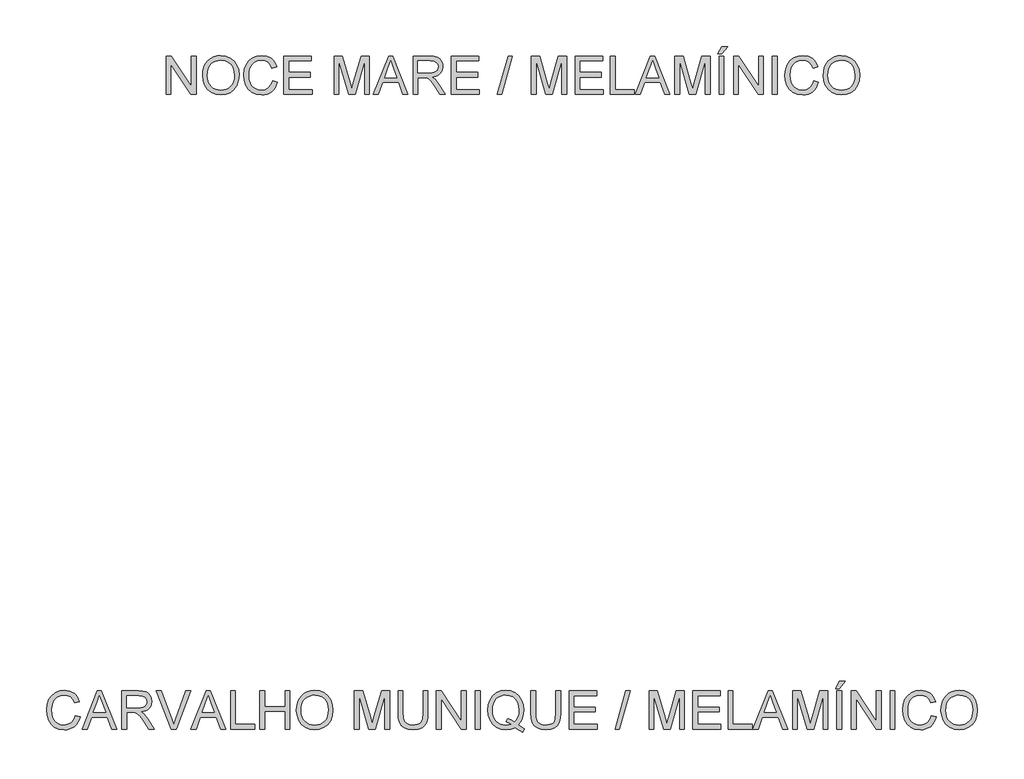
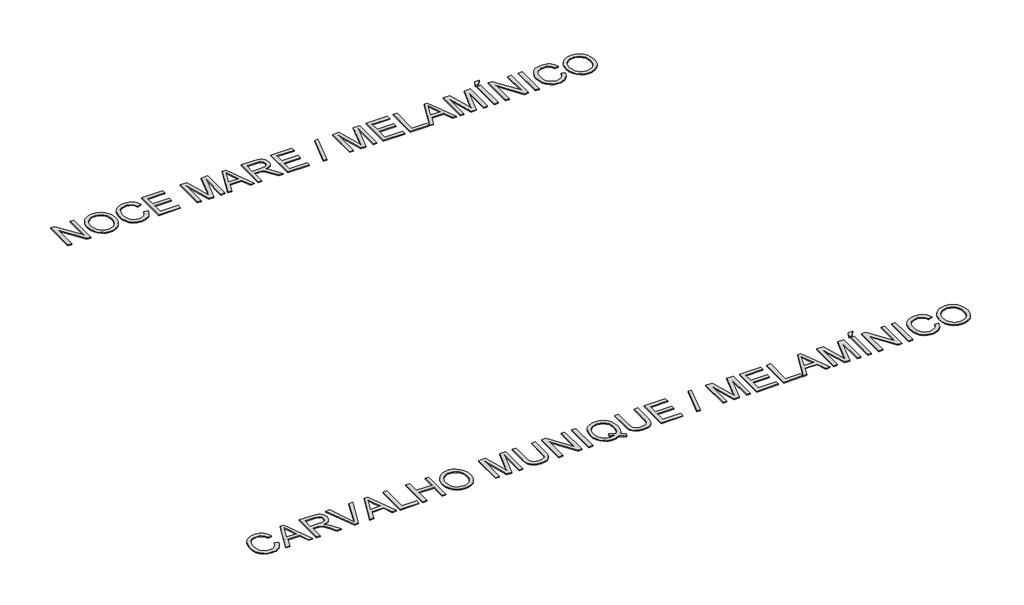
# One storey, part 32 of 67: 2 proxies.
"""IFC4 building model written with IfcOpenShell, lengths in millimetres."""

from ifc_helpers import new_model, si_unit, origin, origin_with_axes, place, context, project, spatial, polyline, outline, extrude, element, save

model = new_model("IFC4")

# Units and contexts
model_context = context("Model", 3, world=origin())
ifc_project = project(units=[si_unit("LENGTHUNIT", "METRE", prefix="MILLI")], contexts=[model_context])

# Site, building, storey
site = spatial("IfcSite", under=ifc_project)
building = spatial("IfcBuilding", under=site)
storey = spatial("IfcBuildingStorey", under=building, Name="Marelli - Linha COLAB - Planta Baixa", Elevation=0.0)

# Proxies
placement = place(None, origin())
element("IfcBuildingElementProxy", 1, Name="300mm Arial", ObjectType="300mm Arial", at=placement, inside=storey, context=model_context, shape_type="SweptSolid", body=[
    extrude(outline(polyline([(30677.8206167, -112530.5663201), (30677.8206167, -112229.1973896), (30718.1404834, -112229.1973896), (30875.5939773, -112467.9528045), (30875.5939773, -112229.1973896), (30913.2650936, -112229.1973896), (30913.2650936, -112530.5663201), (30872.945227, -112530.5663201), (30715.491733, -112291.7373288), (30715.491733, -112530.5663201), (30677.8206167, -112530.5663201)])), origin_with_axes(), (0.0, 0.0, 1.0), 10.0),
    extrude(outline(polyline([(30965.0628785, -112383.8549804), (30967.5736732, -112348.5061192), (30975.106057, -112317.213157), (30987.6600301, -112289.9760937), (31005.2355924, -112266.7949295), (31026.7796818, -112248.2858666), (31051.2392359, -112235.0651074), (31078.6142549, -112227.1326519), (31108.9047387, -112224.4885001), (31148.433659, -112229.454907), (31183.8790893, -112244.3541278), (31213.3096489, -112268.1376988), (31234.7939574, -112299.7571563), (31247.9273446, -112337.68579), (31252.3051404, -112380.3968896), (31247.6974184, -112423.6782064), (31233.8742524, -112462.140269), (31211.5989976, -112493.8149087), (31181.6350091, -112516.733957), (31146.4930815, -112530.6398965), (31108.6840095, -112535.2752096), (31068.5480838, -112530.1524528), (31032.9003185, -112514.7841825), (31003.5433352, -112490.5591531), (30982.2797559, -112458.8661192), (30969.3670979, -112422.3998164), (30965.0628785, -112383.8549804)]), holes=[polyline([(31002.7339949, -112384.2228624), (31004.6170908, -112409.1974513), (31010.2663787, -112431.3669401), (31019.6818585, -112450.7313286), (31032.8635303, -112467.2906169), (31048.8870904, -112480.5527628), (31066.8282355, -112490.0257242), (31086.6869654, -112495.709501), (31108.4632803, -112497.6040933), (31130.6120756, -112495.6911069), (31150.7053304, -112489.9521478), (31168.7430444, -112480.3872159), (31184.7252179, -112466.9963113), (31197.8103206, -112450.0875351), (31207.1568225, -112429.9689885), (31212.7647237, -112406.6406715), (31214.6340241, -112380.102584), (31211.4334507, -112346.7540812), (31201.8317306, -112317.9305269), (31186.0771842, -112294.358488), (31164.4181317, -112276.7645316), (31138.289313, -112265.8108452), (31109.1254679, -112262.1596164), (31088.1056104, -112263.9185522), (31068.6032661, -112269.1953595), (31050.618435, -112277.9900385), (31034.1511172, -112290.302589), (31020.4061262, -112306.7262208), (31010.5882754, -112327.8541437), (31004.697565, -112353.6863575), (31002.7339949, -112384.2228624)])]), origin_with_axes(), (0.0, 0.0, 1.0), 10.0),
    extrude(outline(polyline([(31516.0029545, -112423.4390831), (31553.6740708, -112433.1511677), (31546.2198619, -112456.5783531), (31536.2916466, -112477.0486868), (31523.8894248, -112494.5621691), (31509.0131966, -112509.1187997), (31491.9986543, -112520.5622291), (31473.1814903, -112528.7361071), (31452.5617045, -112533.640434), (31430.1392968, -112535.2752096), (31386.4441129, -112530.3271968), (31351.7436437, -112515.4831583), (31325.1457754, -112491.2581289), (31305.7583943, -112458.1671434), (31293.9217911, -112419.2636224), (31289.9762567, -112377.6009865), (31294.4368259, -112333.6574821), (31307.8185335, -112295.7104543), (31329.4224036, -112264.9647166), (31358.5494606, -112242.6250824), (31393.0935799, -112229.0226457), (31430.9486372, -112224.4885001), (31472.2525882, -112230.3562179), (31490.2213244, -112237.6908652), (31506.4012344, -112247.9593714), (31520.5256038, -112260.8904235), (31532.3277181, -112276.2127086), (31548.9651813, -112314.0309777), (31511.294065, -112323.0072984), (31498.2342542, -112295.5357104), (31480.3919774, -112276.6909552), (31457.5465055, -112265.7924511), (31429.4771093, -112262.1596164), (31397.1218878, -112266.1879242), (31370.5424136, -112278.2728478), (31350.3732832, -112297.1451941), (31337.2490931, -112321.5357704), (31330.047803, -112349.1085259), (31327.647373, -112377.5274101), (31330.4892614, -112412.3290468), (31339.0149266, -112442.421794), (31353.5462655, -112466.6560205), (31374.4051746, -112483.8820949), (31399.4119532, -112494.1735937), (31426.3869005, -112497.6040933), (31457.831614, -112492.931992), (31484.0340091, -112478.9156879), (31503.8168634, -112455.702334), (31516.0029545, -112423.4390831)])), origin_with_axes(), (0.0, 0.0, 1.0), 10.0),
    extrude(outline(polyline([(31605.4718557, -112530.5663201), (31605.4718557, -112229.1973896), (31822.0807745, -112229.1973896), (31822.0807745, -112266.8685059), (31643.1429721, -112266.8685059), (31643.1429721, -112356.3374072), (31812.6629954, -112356.3374072), (31812.6629954, -112394.0085235), (31643.1429721, -112394.0085235), (31643.1429721, -112492.8952038), (31826.789664, -112492.8952038), (31826.789664, -112530.5663201), (31605.4718557, -112530.5663201)])), origin_with_axes(), (0.0, 0.0, 1.0), 10.0),
    extrude(outline(polyline([(32001.018577, -112530.5663201), (32001.018577, -112229.1973896), (32065.8393845, -112229.1973896), (32127.4964069, -112441.6124536), (32139.9308183, -112485.9790223), (32153.3952994, -112437.9336337), (32214.0222522, -112229.1973896), (32278.8430597, -112229.1973896), (32278.8430597, -112530.5663201), (32241.1719434, -112530.5663201), (32241.1719434, -112266.8685059), (32165.4618288, -112530.5663201), (32114.3998079, -112530.5663201), (32038.6896933, -112266.8685059), (32038.6896933, -112530.5663201), (32001.018577, -112530.5663201)])), origin_with_axes(), (0.0, 0.0, 1.0), 10.0),
    extrude(outline(polyline([(32309.6715709, -112530.5663201), (32429.9689833, -112229.1973896), (32462.0482933, -112229.1973896), (32582.3457057, -112530.5663201), (32542.5408739, -112530.5663201), (32508.0335427, -112436.3885293), (32383.9101575, -112436.3885293), (32349.4764028, -112530.5663201), (32309.6715709, -112530.5663201)]), holes=[polyline([(32397.7425206, -112398.717413), (32494.2747561, -112398.717413), (32467.1250649, -112324.6259792), (32446.0086383, -112266.8685059), (32427.2466566, -112318.1512561), (32397.7425206, -112398.717413)])]), origin_with_axes(), (0.0, 0.0, 1.0), 10.0),
    extrude(outline(polyline([(32622.591996, -112530.5663201), (32622.591996, -112229.1973896), (32752.4543403, -112229.1973896), (32787.3571446, -112231.2299376), (32812.7501993, -112237.3275817), (32831.309846, -112248.5847708), (32845.7124261, -112266.0959537), (32854.9554612, -112287.8101885), (32858.0364729, -112311.6765329), (32852.9321102, -112341.3646099), (32837.6190222, -112365.9759154), (32826.019243, -112376.0052983), (32811.6373563, -112384.0205273), (32774.52726, -112394.0085235), (32795.9379921, -112410.1217548), (32826.4721977, -112448.8965171), (32876.7248783, -112530.5663201), (32832.9469209, -112530.5663201), (32793.7307002, -112468.0999573), (32765.4037865, -112426.750021), (32745.5013706, -112407.2154871), (32727.5855174, -112400.0417882), (32705.7333269, -112398.717413), (32660.2631123, -112398.717413), (32660.2631123, -112530.5663201), (32622.591996, -112530.5663201)]), holes=[polyline([(32660.2631123, -112361.0462967), (32744.5816656, -112361.0462967), (32768.7974979, -112359.7127245), (32787.5870709, -112355.7120078), (32801.7321336, -112348.7774322), (32812.0144353, -112338.6422832), (32818.2776263, -112326.3826157), (32820.3653566, -112313.0744845), (32816.383034, -112294.6987789), (32804.4360662, -112279.8915286), (32783.8806597, -112270.1242616), (32754.0730211, -112266.8685059), (32660.2631123, -112266.8685059), (32660.2631123, -112361.0462967)])]), origin_with_axes(), (0.0, 0.0, 1.0), 10.0),
    extrude(outline(polyline([(32923.9609265, -112530.5663201), (32923.9609265, -112229.1973896), (33140.5698452, -112229.1973896), (33140.5698452, -112266.8685059), (32961.6320428, -112266.8685059), (32961.6320428, -112356.3374072), (33131.1520661, -112356.3374072), (33131.1520661, -112394.0085235), (32961.6320428, -112394.0085235), (32961.6320428, -112492.8952038), (33145.2787348, -112492.8952038), (33145.2787348, -112530.5663201), (32923.9609265, -112530.5663201)])), origin_with_axes(), (0.0, 0.0, 1.0), 10.0),
    extrude(outline(polyline([(33286.5454209, -112530.5663201), (33371.3054326, -112229.1973896), (33405.297729, -112229.1973896), (33320.5377173, -112530.5663201), (33286.5454209, -112530.5663201)])), origin_with_axes(), (0.0, 0.0, 1.0), 10.0),
    extrude(outline(polyline([(33554.9521246, -112530.5663201), (33554.9521246, -112229.1973896), (33619.7729321, -112229.1973896), (33681.4299545, -112441.6124536), (33693.864366, -112485.9790223), (33707.328847, -112437.9336337), (33767.9557998, -112229.1973896), (33832.7766073, -112229.1973896), (33832.7766073, -112530.5663201), (33795.105491, -112530.5663201), (33795.105491, -112266.8685059), (33719.3953764, -112530.5663201), (33668.3333555, -112530.5663201), (33592.6232409, -112266.8685059), (33592.6232409, -112530.5663201), (33554.9521246, -112530.5663201)])), origin_with_axes(), (0.0, 0.0, 1.0), 10.0),
    extrude(outline(polyline([(33898.7010609, -112530.5663201), (33898.7010609, -112229.1973896), (34115.3099796, -112229.1973896), (34115.3099796, -112266.8685059), (33936.3721772, -112266.8685059), (33936.3721772, -112356.3374072), (34105.8922006, -112356.3374072), (34105.8922006, -112394.0085235), (33936.3721772, -112394.0085235), (33936.3721772, -112492.8952038), (34120.0188692, -112492.8952038), (34120.0188692, -112530.5663201), (33898.7010609, -112530.5663201)])), origin_with_axes(), (0.0, 0.0, 1.0), 10.0),
    extrude(outline(polyline([(34176.5255436, -112530.5663201), (34176.5255436, -112229.1973896), (34214.1966599, -112229.1973896), (34214.1966599, -112492.8952038), (34364.8811252, -112492.8952038), (34364.8811252, -112530.5663201), (34176.5255436, -112530.5663201)])), origin_with_axes(), (0.0, 0.0, 1.0), 10.0),
    extrude(outline(polyline([(34372.1651887, -112530.5663201), (34492.4626011, -112229.1973896), (34524.5419111, -112229.1973896), (34644.8393235, -112530.5663201), (34605.0344916, -112530.5663201), (34570.5271605, -112436.3885293), (34446.4037753, -112436.3885293), (34411.9700206, -112530.5663201), (34372.1651887, -112530.5663201)]), holes=[polyline([(34460.2361383, -112398.717413), (34556.7683739, -112398.717413), (34529.6186826, -112324.6259792), (34508.5022561, -112266.8685059), (34489.7402743, -112318.1512561), (34460.2361383, -112398.717413)])]), origin_with_axes(), (0.0, 0.0, 1.0), 10.0),
    extrude(outline(polyline([(34685.0856138, -112530.5663201), (34685.0856138, -112229.1973896), (34749.9064213, -112229.1973896), (34811.5634437, -112441.6124536), (34823.9978552, -112485.9790223), (34837.4623362, -112437.9336337), (34898.089289, -112229.1973896), (34962.9100965, -112229.1973896), (34962.9100965, -112530.5663201), (34925.2389802, -112530.5663201), (34925.2389802, -112266.8685059), (34849.5288656, -112530.5663201), (34798.4668447, -112530.5663201), (34722.7567301, -112266.8685059), (34722.7567301, -112530.5663201), (34685.0856138, -112530.5663201)])), origin_with_axes(), (0.0, 0.0, 1.0), 10.0),
    extrude(outline(polyline([(35033.5434396, -112530.5663201), (35033.5434396, -112229.1973896), (35071.2145559, -112229.1973896), (35071.2145559, -112530.5663201), (35033.5434396, -112530.5663201)])), origin_with_axes(), (0.0, 0.0, 1.0), 10.0),
    extrude(outline(polyline([(35024.1256605, -112210.3618315), (35052.3789978, -112153.855157), (35099.4678931, -112153.855157), (35052.3789978, -112210.3618315), (35024.1256605, -112210.3618315)])), origin_with_axes(), (0.0, 0.0, 1.0), 10.0),
    extrude(outline(polyline([(35146.5567885, -112530.5663201), (35146.5567885, -112229.1973896), (35186.8766552, -112229.1973896), (35344.3301491, -112467.9528045), (35344.3301491, -112229.1973896), (35382.0012654, -112229.1973896), (35382.0012654, -112530.5663201), (35341.6813988, -112530.5663201), (35184.2279048, -112291.7373288), (35184.2279048, -112530.5663201), (35146.5567885, -112530.5663201)])), origin_with_axes(), (0.0, 0.0, 1.0), 10.0),
    extrude(outline(polyline([(35452.6346085, -112530.5663201), (35452.6346085, -112229.1973896), (35490.3057248, -112229.1973896), (35490.3057248, -112530.5663201), (35452.6346085, -112530.5663201)])), origin_with_axes(), (0.0, 0.0, 1.0), 10.0),
    extrude(outline(polyline([(35777.5479867, -112423.4390831), (35815.219103, -112433.1511677), (35807.764894, -112456.5783531), (35797.8366787, -112477.0486868), (35785.4344569, -112494.5621691), (35770.5582287, -112509.1187997), (35753.5436865, -112520.5622291), (35734.7265224, -112528.7361071), (35714.1067366, -112533.640434), (35691.684329, -112535.2752096), (35647.989145, -112530.3271968), (35613.2886758, -112515.4831583), (35586.6908076, -112491.2581289), (35567.3034264, -112458.1671434), (35555.4668232, -112419.2636224), (35551.5212888, -112377.6009865), (35555.981858, -112333.6574821), (35569.3635656, -112295.7104543), (35590.9674357, -112264.9647166), (35620.0944927, -112242.6250824), (35654.6386121, -112229.0226457), (35692.4936694, -112224.4885001), (35733.7976204, -112230.3562179), (35751.7663566, -112237.6908652), (35767.9462666, -112247.9593714), (35782.0706359, -112260.8904235), (35793.8727502, -112276.2127086), (35810.5102134, -112314.0309777), (35772.8390971, -112323.0072984), (35759.7792863, -112295.5357104), (35741.9370095, -112276.6909552), (35719.0915376, -112265.7924511), (35691.0221414, -112262.1596164), (35658.6669199, -112266.1879242), (35632.0874458, -112278.2728478), (35611.9183154, -112297.1451941), (35598.7941252, -112321.5357704), (35591.5928351, -112349.1085259), (35589.1924051, -112377.5274101), (35592.0342935, -112412.3290468), (35600.5599588, -112442.421794), (35615.0912976, -112466.6560205), (35635.9502067, -112483.8820949), (35660.9569853, -112494.1735937), (35687.9319326, -112497.6040933), (35719.3766462, -112492.931992), (35745.5790413, -112478.9156879), (35765.3618956, -112455.702334), (35777.5479867, -112423.4390831)])), origin_with_axes(), (0.0, 0.0, 1.0), 10.0),
    extrude(outline(polyline([(35852.8902193, -112383.8549804), (35855.4010139, -112348.5061192), (35862.9333977, -112317.213157), (35875.4873708, -112289.9760937), (35893.0629331, -112266.7949295), (35914.6070225, -112248.2858666), (35939.0665766, -112235.0651074), (35966.4415956, -112227.1326519), (35996.7320794, -112224.4885001), (36036.2609998, -112229.454907), (36071.70643, -112244.3541278), (36101.1369896, -112268.1376988), (36122.6212981, -112299.7571563), (36135.7546854, -112337.68579), (36140.1324811, -112380.3968896), (36135.5247591, -112423.6782064), (36121.7015931, -112462.140269), (36099.4263383, -112493.8149087), (36069.4623498, -112516.733957), (36034.3204222, -112530.6398965), (35996.5113502, -112535.2752096), (35956.3754245, -112530.1524528), (35920.7276592, -112514.7841825), (35891.370676, -112490.5591531), (35870.1070966, -112458.8661192), (35857.1944386, -112422.3998164), (35852.8902193, -112383.8549804)]), holes=[polyline([(35890.5613356, -112384.2228624), (35892.4444315, -112409.1974513), (35898.0937194, -112431.3669401), (35907.5091992, -112450.7313286), (35920.690871, -112467.2906169), (35936.7144311, -112480.5527628), (35954.6555762, -112490.0257242), (35974.5143061, -112495.709501), (35996.290621, -112497.6040933), (36018.4394164, -112495.6911069), (36038.5326711, -112489.9521478), (36056.5703852, -112480.3872159), (36072.5525586, -112466.9963113), (36085.6376613, -112450.0875351), (36094.9841632, -112429.9689885), (36100.5920644, -112406.6406715), (36102.4613648, -112380.102584), (36099.2607914, -112346.7540812), (36089.6590714, -112317.9305269), (36073.9045249, -112294.358488), (36052.2454724, -112276.7645316), (36026.1166537, -112265.8108452), (35996.9528086, -112262.1596164), (35975.9329511, -112263.9185522), (35956.4306068, -112269.1953595), (35938.4457758, -112277.9900385), (35921.978458, -112290.302589), (35908.2334669, -112306.7262208), (35898.4156162, -112327.8541437), (35892.5249057, -112353.6863575), (35890.5613356, -112384.2228624)])]), origin_with_axes(), (0.0, 0.0, 1.0), 10.0),
])
element("IfcBuildingElementProxy", 2, Name="300mm Arial", ObjectType="300mm Arial", at=placement, inside=storey, context=model_context, shape_type="SweptSolid", body=[
    extrude(outline(polyline([(29962.0694069, -117423.4390831), (29999.7405232, -117433.1511677), (29992.2863143, -117456.5783531), (29982.3580989, -117477.0486868), (29969.9558772, -117494.5621691), (29955.079649, -117509.1187997), (29938.0651067, -117520.5622291), (29919.2479427, -117528.7361071), (29898.6281568, -117533.640434), (29876.2057492, -117535.2752096), (29832.5105652, -117530.3271968), (29797.810096, -117515.4831583), (29771.2122278, -117491.2581289), (29751.8248467, -117458.1671434), (29739.9882435, -117419.2636224), (29736.0427091, -117377.6009865), (29740.5032783, -117333.6574821), (29753.8849858, -117295.7104543), (29775.488856, -117264.9647166), (29804.615913, -117242.6250824), (29839.1600323, -117229.0226457), (29877.0150896, -117224.4885001), (29918.3190406, -117230.3562179), (29936.2877768, -117237.6908652), (29952.4676868, -117247.9593714), (29966.5920562, -117260.8904235), (29978.3941704, -117276.2127086), (29995.0316337, -117314.0309777), (29957.3605174, -117323.0072984), (29944.3007065, -117295.5357104), (29926.4584298, -117276.6909552), (29903.6129579, -117265.7924511), (29875.5435616, -117262.1596164), (29843.1883402, -117266.1879242), (29816.608866, -117278.2728478), (29796.4397356, -117297.1451941), (29783.3155454, -117321.5357704), (29776.1142554, -117349.1085259), (29773.7138254, -117377.5274101), (29776.5557138, -117412.3290468), (29785.081379, -117442.421794), (29799.6127178, -117466.6560205), (29820.471627, -117483.8820949), (29845.4784056, -117494.1735937), (29872.4533529, -117497.6040933), (29903.8980664, -117492.931992), (29930.1004615, -117478.9156879), (29949.8833158, -117455.702334), (29962.0694069, -117423.4390831)])), origin_with_axes(), (0.0, 0.0, 1.0), 10.0),
    extrude(outline(polyline([(30016.4423658, -117530.5663201), (30136.7397782, -117229.1973896), (30168.8190882, -117229.1973896), (30289.1165006, -117530.5663201), (30249.3116687, -117530.5663201), (30214.8043376, -117436.3885293), (30090.6809524, -117436.3885293), (30056.2471977, -117530.5663201), (30016.4423658, -117530.5663201)]), holes=[polyline([(30104.5133154, -117398.717413), (30201.045551, -117398.717413), (30173.8958597, -117324.6259792), (30152.7794332, -117266.8685059), (30134.0174514, -117318.1512561), (30104.5133154, -117398.717413)])]), origin_with_axes(), (0.0, 0.0, 1.0), 10.0),
    extrude(outline(polyline([(30329.3627909, -117530.5663201), (30329.3627909, -117229.1973896), (30459.2251352, -117229.1973896), (30494.1279395, -117231.2299376), (30519.5209942, -117237.3275817), (30538.0806408, -117248.5847708), (30552.483221, -117266.0959537), (30561.7262561, -117287.8101885), (30564.8072678, -117311.6765329), (30559.7029051, -117341.3646099), (30544.3898171, -117365.9759154), (30532.7900379, -117376.0052983), (30518.4081512, -117384.0205273), (30481.2980549, -117394.0085235), (30502.708787, -117410.1217548), (30533.2429926, -117448.8965171), (30583.4956731, -117530.5663201), (30539.7177157, -117530.5663201), (30500.501495, -117468.0999573), (30472.1745814, -117426.750021), (30452.2721655, -117407.2154871), (30434.3563123, -117400.0417882), (30412.5041218, -117398.717413), (30367.0339072, -117398.717413), (30367.0339072, -117530.5663201), (30329.3627909, -117530.5663201)]), holes=[polyline([(30367.0339072, -117361.0462967), (30451.3524605, -117361.0462967), (30475.5682928, -117359.7127245), (30494.3578657, -117355.7120078), (30508.5029284, -117348.7774322), (30518.7852302, -117338.6422832), (30525.0484212, -117326.3826157), (30527.1361515, -117313.0744845), (30523.1538289, -117294.6987789), (30511.2068611, -117279.8915286), (30490.6514546, -117270.1242616), (30460.843816, -117266.8685059), (30367.0339072, -117266.8685059), (30367.0339072, -117361.0462967)])]), origin_with_axes(), (0.0, 0.0, 1.0), 10.0),
    extrude(outline(polyline([(30873.4602617, -117530.5663201), (30993.7576742, -117229.1973896), (31025.8369841, -117229.1973896), (31146.1343966, -117530.5663201), (31106.3295647, -117530.5663201), (31071.8222335, -117436.3885293), (30947.6988484, -117436.3885293), (30913.2650936, -117530.5663201), (30873.4602617, -117530.5663201)]), holes=[polyline([(30961.5312114, -117398.717413), (31058.0634469, -117398.717413), (31030.9137557, -117324.6259792), (31009.7973292, -117266.8685059), (30991.0353474, -117318.1512561), (30961.5312114, -117398.717413)])]), origin_with_axes(), (0.0, 0.0, 1.0), 10.0),
    extrude(outline(polyline([(30719.7591642, -117530.5663201), (30599.8296337, -117229.1973896), (30640.1495004, -117229.1973896), (30720.4213518, -117446.3213432), (30736.6817359, -117495.2496485), (30752.7213909, -117446.3213432), (30833.2139715, -117229.1973896), (30873.5338381, -117229.1973896), (30758.6810793, -117530.5663201), (30719.7591642, -117530.5663201)])), origin_with_axes(), (0.0, 0.0, 1.0), 10.0),
    extrude(outline(polyline([(31186.3806868, -117530.5663201), (31186.3806868, -117229.1973896), (31224.0518032, -117229.1973896), (31224.0518032, -117492.8952038), (31374.7362684, -117492.8952038), (31374.7362684, -117530.5663201), (31186.3806868, -117530.5663201)])), origin_with_axes(), (0.0, 0.0, 1.0), 10.0),
    extrude(outline(polyline([(31417.1162742, -117530.5663201), (31417.1162742, -117229.1973896), (31454.7873905, -117229.1973896), (31454.7873905, -117351.6285176), (31614.8896348, -117351.6285176), (31614.8896348, -117229.1973896), (31652.5607511, -117229.1973896), (31652.5607511, -117530.5663201), (31614.8896348, -117530.5663201), (31614.8896348, -117389.2996339), (31454.7873905, -117389.2996339), (31454.7873905, -117530.5663201), (31417.1162742, -117530.5663201)])), origin_with_axes(), (0.0, 0.0, 1.0), 10.0),
    extrude(outline(polyline([(31704.3585361, -117383.8549804), (31706.8693307, -117348.5061192), (31714.4017145, -117317.213157), (31726.9556876, -117289.9760937), (31744.5312499, -117266.7949295), (31766.0753393, -117248.2858666), (31790.5348934, -117235.0651074), (31817.9099124, -117227.1326519), (31848.2003962, -117224.4885001), (31887.7293165, -117229.454907), (31923.1747468, -117244.3541278), (31952.6053064, -117268.1376988), (31974.0896149, -117299.7571563), (31987.2230021, -117337.68579), (31991.6007979, -117380.3968896), (31986.9930759, -117423.6782064), (31973.1699099, -117462.140269), (31950.8946551, -117493.8149087), (31920.9306666, -117516.733957), (31885.788739, -117530.6398965), (31847.979667, -117535.2752096), (31807.8437413, -117530.1524528), (31772.195976, -117514.7841825), (31742.8389927, -117490.5591531), (31721.5754134, -117458.8661192), (31708.6627554, -117422.3998164), (31704.3585361, -117383.8549804)]), holes=[polyline([(31742.0296524, -117384.2228624), (31743.9127483, -117409.1974513), (31749.5620362, -117431.3669401), (31758.977516, -117450.7313286), (31772.1591878, -117467.2906169), (31788.1827479, -117480.5527628), (31806.123893, -117490.0257242), (31825.9826229, -117495.709501), (31847.7589378, -117497.6040933), (31869.9077331, -117495.6911069), (31890.0009879, -117489.9521478), (31908.0387019, -117480.3872159), (31924.0208754, -117466.9963113), (31937.1059781, -117450.0875351), (31946.45248, -117429.9689885), (31952.0603812, -117406.6406715), (31953.9296816, -117380.102584), (31950.7291082, -117346.7540812), (31941.1273881, -117317.9305269), (31925.3728417, -117294.358488), (31903.7137892, -117276.7645316), (31877.5849705, -117265.8108452), (31848.4211254, -117262.1596164), (31827.4012679, -117263.9185522), (31807.8989236, -117269.1953595), (31789.9140926, -117277.9900385), (31773.4467747, -117290.302589), (31759.7017837, -117306.7262208), (31749.883933, -117327.8541437), (31743.9932225, -117353.6863575), (31742.0296524, -117384.2228624)])]), origin_with_axes(), (0.0, 0.0, 1.0), 10.0),
    extrude(outline(polyline([(32161.1208213, -117530.5663201), (32161.1208213, -117229.1973896), (32225.9416288, -117229.1973896), (32287.5986512, -117441.6124536), (32300.0330626, -117485.9790223), (32313.4975437, -117437.9336337), (32374.1244965, -117229.1973896), (32438.945304, -117229.1973896), (32438.945304, -117530.5663201), (32401.2741877, -117530.5663201), (32401.2741877, -117266.8685059), (32325.5640731, -117530.5663201), (32274.5020522, -117530.5663201), (32198.7919376, -117266.8685059), (32198.7919376, -117530.5663201), (32161.1208213, -117530.5663201)])), origin_with_axes(), (0.0, 0.0, 1.0), 10.0),
    extrude(outline(polyline([(32702.6431182, -117229.1973896), (32740.3142345, -117229.1973896), (32740.3142345, -117403.0584205), (32737.7574546, -117443.7737604), (32730.087115, -117475.1265034), (32715.7581113, -117499.3147446), (32693.2253391, -117518.5365788), (32662.4336161, -117531.0905519), (32623.32776, -117535.2752096), (32585.0772296, -117531.6331779), (32554.4970387, -117520.7070826), (32531.5779904, -117502.8740029), (32516.3108876, -117478.5110178), (32507.7300401, -117445.8338995), (32504.8697576, -117403.0584205), (32504.8697576, -117229.1973896), (32542.5408739, -117229.1973896), (32542.5408739, -117401.7340454), (32544.3986779, -117435.588386), (32549.9720902, -117459.1604248), (32560.0704509, -117475.4851883), (32575.5031006, -117487.597703), (32595.6262458, -117495.1024957), (32619.7960929, -117497.6040933), (32658.1110026, -117492.6560805), (32672.4538019, -117486.4710644), (32683.5868308, -117477.812042), (32691.9239565, -117465.6351479), (32697.8790463, -117448.8965171), (32702.6431182, -117401.7340454), (32702.6431182, -117229.1973896)])), origin_with_axes(), (0.0, 0.0, 1.0), 10.0),
    extrude(outline(polyline([(32806.238688, -117530.5663201), (32806.238688, -117229.1973896), (32846.5585547, -117229.1973896), (33004.0120486, -117467.9528045), (33004.0120486, -117229.1973896), (33041.6831649, -117229.1973896), (33041.6831649, -117530.5663201), (33001.3632982, -117530.5663201), (32843.9098043, -117291.7373288), (32843.9098043, -117530.5663201), (32806.238688, -117530.5663201)])), origin_with_axes(), (0.0, 0.0, 1.0), 10.0),
    extrude(outline(polyline([(33112.316508, -117530.5663201), (33112.316508, -117229.1973896), (33149.9876243, -117229.1973896), (33149.9876243, -117530.5663201), (33112.316508, -117530.5663201)])), origin_with_axes(), (0.0, 0.0, 1.0), 10.0),
    extrude(outline(polyline([(33451.7244367, -117494.4403081), (33476.0598307, -117513.036743), (33498.4454501, -117525.8574305), (33488.2919071, -117553.4485802), (33457.2242726, -117539.0460001), (33426.2670027, -117518.205485), (33391.4101836, -117531.0077785), (33353.0584856, -117535.2752096), (33314.5228466, -117530.3547879), (33279.7028158, -117515.5935229), (33250.5389706, -117491.9203165), (33228.9718887, -117460.2640708), (33215.6453634, -117422.3630282), (33211.2031883, -117379.9554312), (33215.6361663, -117337.511046), (33228.9351005, -117299.0581805), (33250.419409, -117266.9512794), (33279.4085102, -117243.5447874), (33314.0997823, -117229.2525719), (33352.6906036, -117224.4885001), (33391.5849276, -117229.3629365), (33426.4509437, -117243.9862458), (33455.3940596, -117267.3835407), (33476.5196832, -117298.5799339), (33489.4323412, -117335.9199564), (33493.7365606, -117377.7481393), (33491.1245984, -117412.5313819), (33483.2887119, -117443.5990164), (33470.1737188, -117470.9142546), (33451.7244367, -117494.4403081)]), holes=[polyline([(33363.4327579, -117444.3347804), (33395.1073977, -117456.3093393), (33420.6751964, -117472.9559996), (33436.1584298, -117455.4816049), (33447.2178823, -117434.1076609), (33453.8535538, -117408.8341679), (33456.0654443, -117379.6611256), (33452.9384473, -117346.5057608), (33443.5574565, -117317.8201623), (33428.1523979, -117294.3308969), (33406.9531979, -117276.7645316), (33381.3945963, -117265.8108452), (33352.9113328, -117262.1596164), (33331.4270243, -117264.0059242), (33311.8557022, -117269.5448474), (33294.1973664, -117278.7763863), (33278.452017, -117291.7005406), (33265.5117678, -117308.2897193), (33256.2687327, -117328.5163313), (33250.7229116, -117352.3803764), (33248.8743046, -117379.8818548), (33250.7022183, -117406.6659634), (33256.1859593, -117430.1437324), (33265.3255276, -117450.3151621), (33278.1209232, -117467.1802523), (33293.7582073, -117480.4906827), (33311.4234408, -117489.998133), (33331.1166239, -117495.7026032), (33352.8377564, -117497.6040933), (33373.7518479, -117495.6727128), (33393.3783523, -117489.8785714), (33374.0829417, -117479.853787), (33353.7206732, -117473.1767288), (33363.4327579, -117444.3347804)])]), origin_with_axes(), (0.0, 0.0, 1.0), 10.0),
    extrude(outline(polyline([(33748.0165957, -117229.1973896), (33785.687712, -117229.1973896), (33785.687712, -117403.0584205), (33783.1309321, -117443.7737604), (33775.4605925, -117475.1265034), (33761.1315888, -117499.3147446), (33738.5988166, -117518.5365788), (33707.8070936, -117531.0905519), (33668.7012375, -117535.2752096), (33630.4507071, -117531.6331779), (33599.8705162, -117520.7070826), (33576.9514679, -117502.8740029), (33561.6843651, -117478.5110178), (33553.1035176, -117445.8338995), (33550.2432351, -117403.0584205), (33550.2432351, -117229.1973896), (33587.9143514, -117229.1973896), (33587.9143514, -117401.7340454), (33589.7721554, -117435.588386), (33595.3455677, -117459.1604248), (33605.4439284, -117475.4851883), (33620.8765781, -117487.597703), (33640.9997233, -117495.1024957), (33665.1695703, -117497.6040933), (33703.4844801, -117492.6560805), (33717.8272794, -117486.4710644), (33728.9603083, -117477.812042), (33737.297434, -117465.6351479), (33743.2525238, -117448.8965171), (33748.0165957, -117401.7340454), (33748.0165957, -117229.1973896)])), origin_with_axes(), (0.0, 0.0, 1.0), 10.0),
    extrude(outline(polyline([(33851.6121655, -117530.5663201), (33851.6121655, -117229.1973896), (34068.2210843, -117229.1973896), (34068.2210843, -117266.8685059), (33889.2832818, -117266.8685059), (33889.2832818, -117356.3374072), (34058.8033052, -117356.3374072), (34058.8033052, -117394.0085235), (33889.2832818, -117394.0085235), (33889.2832818, -117492.8952038), (34072.9299738, -117492.8952038), (34072.9299738, -117530.5663201), (33851.6121655, -117530.5663201)])), origin_with_axes(), (0.0, 0.0, 1.0), 10.0),
    extrude(outline(polyline([(34214.1966599, -117530.5663201), (34298.9566716, -117229.1973896), (34332.948968, -117229.1973896), (34248.1889563, -117530.5663201), (34214.1966599, -117530.5663201)])), origin_with_axes(), (0.0, 0.0, 1.0), 10.0),
    extrude(outline(polyline([(34482.6033636, -117530.5663201), (34482.6033636, -117229.1973896), (34547.4241712, -117229.1973896), (34609.0811936, -117441.6124536), (34621.515605, -117485.9790223), (34634.980086, -117437.9336337), (34695.6070388, -117229.1973896), (34760.4278464, -117229.1973896), (34760.4278464, -117530.5663201), (34722.7567301, -117530.5663201), (34722.7567301, -117266.8685059), (34647.0466155, -117530.5663201), (34595.9845945, -117530.5663201), (34520.2744799, -117266.8685059), (34520.2744799, -117530.5663201), (34482.6033636, -117530.5663201)])), origin_with_axes(), (0.0, 0.0, 1.0), 10.0),
    extrude(outline(polyline([(34826.3522999, -117530.5663201), (34826.3522999, -117229.1973896), (35042.9612187, -117229.1973896), (35042.9612187, -117266.8685059), (34864.0234162, -117266.8685059), (34864.0234162, -117356.3374072), (35033.5434396, -117356.3374072), (35033.5434396, -117394.0085235), (34864.0234162, -117394.0085235), (34864.0234162, -117492.8952038), (35047.6701082, -117492.8952038), (35047.6701082, -117530.5663201), (34826.3522999, -117530.5663201)])), origin_with_axes(), (0.0, 0.0, 1.0), 10.0),
    extrude(outline(polyline([(35104.1767827, -117530.5663201), (35104.1767827, -117229.1973896), (35141.847899, -117229.1973896), (35141.847899, -117492.8952038), (35292.5323642, -117492.8952038), (35292.5323642, -117530.5663201), (35104.1767827, -117530.5663201)])), origin_with_axes(), (0.0, 0.0, 1.0), 10.0),
    extrude(outline(polyline([(35299.8164277, -117530.5663201), (35420.1138401, -117229.1973896), (35452.1931501, -117229.1973896), (35572.4905625, -117530.5663201), (35532.6857307, -117530.5663201), (35498.1783995, -117436.3885293), (35374.0550143, -117436.3885293), (35339.6212596, -117530.5663201), (35299.8164277, -117530.5663201)]), holes=[polyline([(35387.8873774, -117398.717413), (35484.4196129, -117398.717413), (35457.2699216, -117324.6259792), (35436.1534951, -117266.8685059), (35417.3915134, -117318.1512561), (35387.8873774, -117398.717413)])]), origin_with_axes(), (0.0, 0.0, 1.0), 10.0),
    extrude(outline(polyline([(35612.7368528, -117530.5663201), (35612.7368528, -117229.1973896), (35677.5576604, -117229.1973896), (35739.2146828, -117441.6124536), (35751.6490942, -117485.9790223), (35765.1135752, -117437.9336337), (35825.740528, -117229.1973896), (35890.5613356, -117229.1973896), (35890.5613356, -117530.5663201), (35852.8902193, -117530.5663201), (35852.8902193, -117266.8685059), (35777.1801047, -117530.5663201), (35726.1180837, -117530.5663201), (35650.4079691, -117266.8685059), (35650.4079691, -117530.5663201), (35612.7368528, -117530.5663201)])), origin_with_axes(), (0.0, 0.0, 1.0), 10.0),
    extrude(outline(polyline([(35961.1946786, -117530.5663201), (35961.1946786, -117229.1973896), (35998.8657949, -117229.1973896), (35998.8657949, -117530.5663201), (35961.1946786, -117530.5663201)])), origin_with_axes(), (0.0, 0.0, 1.0), 10.0),
    extrude(outline(polyline([(35951.7768996, -117210.3618315), (35980.0302368, -117153.855157), (36027.1191322, -117153.855157), (35980.0302368, -117210.3618315), (35951.7768996, -117210.3618315)])), origin_with_axes(), (0.0, 0.0, 1.0), 10.0),
    extrude(outline(polyline([(36074.2080276, -117530.5663201), (36074.2080276, -117229.1973896), (36114.5278942, -117229.1973896), (36271.9813882, -117467.9528045), (36271.9813882, -117229.1973896), (36309.6525045, -117229.1973896), (36309.6525045, -117530.5663201), (36269.3326378, -117530.5663201), (36111.8791439, -117291.7373288), (36111.8791439, -117530.5663201), (36074.2080276, -117530.5663201)])), origin_with_axes(), (0.0, 0.0, 1.0), 10.0),
    extrude(outline(polyline([(36380.2858475, -117530.5663201), (36380.2858475, -117229.1973896), (36417.9569639, -117229.1973896), (36417.9569639, -117530.5663201), (36380.2858475, -117530.5663201)])), origin_with_axes(), (0.0, 0.0, 1.0), 10.0),
    extrude(outline(polyline([(36705.1992257, -117423.4390831), (36742.870342, -117433.1511677), (36735.4161331, -117456.5783531), (36725.4879177, -117477.0486868), (36713.085696, -117494.5621691), (36698.2094678, -117509.1187997), (36681.1949255, -117520.5622291), (36662.3777614, -117528.7361071), (36641.7579756, -117533.640434), (36619.335568, -117535.2752096), (36575.640384, -117530.3271968), (36540.9399148, -117515.4831583), (36514.3420466, -117491.2581289), (36494.9546654, -117458.1671434), (36483.1180622, -117419.2636224), (36479.1725279, -117377.6009865), (36483.633097, -117333.6574821), (36497.0148046, -117295.7104543), (36518.6186748, -117264.9647166), (36547.7457318, -117242.6250824), (36582.2898511, -117229.0226457), (36620.1449084, -117224.4885001), (36661.4488594, -117230.3562179), (36679.4175956, -117237.6908652), (36695.5975056, -117247.9593714), (36709.721875, -117260.8904235), (36721.5239892, -117276.2127086), (36738.1614525, -117314.0309777), (36700.4903361, -117323.0072984), (36687.4305253, -117295.5357104), (36669.5882486, -117276.6909552), (36646.7427767, -117265.7924511), (36618.6733804, -117262.1596164), (36586.3181589, -117266.1879242), (36559.7386848, -117278.2728478), (36539.5695544, -117297.1451941), (36526.4453642, -117321.5357704), (36519.2440742, -117349.1085259), (36516.8436442, -117377.5274101), (36519.6855326, -117412.3290468), (36528.2111978, -117442.421794), (36542.7425366, -117466.6560205), (36563.6014457, -117483.8820949), (36588.6082244, -117494.1735937), (36615.5831717, -117497.6040933), (36647.0278852, -117492.931992), (36673.2302803, -117478.9156879), (36693.0131346, -117455.702334), (36705.1992257, -117423.4390831)])), origin_with_axes(), (0.0, 0.0, 1.0), 10.0),
    extrude(outline(polyline([(36780.5414583, -117383.8549804), (36783.0522529, -117348.5061192), (36790.5846368, -117317.213157), (36803.1386099, -117289.9760937), (36820.7141722, -117266.7949295), (36842.2582615, -117248.2858666), (36866.7178157, -117235.0651074), (36894.0928346, -117227.1326519), (36924.3833184, -117224.4885001), (36963.9122388, -117229.454907), (36999.357669, -117244.3541278), (37028.7882286, -117268.1376988), (37050.2725372, -117299.7571563), (37063.4059244, -117337.68579), (37067.7837201, -117380.3968896), (37063.1759981, -117423.6782064), (37049.3528322, -117462.140269), (37027.0775774, -117493.8149087), (36997.1135889, -117516.733957), (36961.9716613, -117530.6398965), (36924.1625892, -117535.2752096), (36884.0266635, -117530.1524528), (36848.3788982, -117514.7841825), (36819.021915, -117490.5591531), (36797.7583357, -117458.8661192), (36784.8456776, -117422.3998164), (36780.5414583, -117383.8549804)]), holes=[polyline([(36818.2125746, -117384.2228624), (36820.0956706, -117409.1974513), (36825.7449585, -117431.3669401), (36835.1604383, -117450.7313286), (36848.34211, -117467.2906169), (36864.3656702, -117480.5527628), (36882.3068152, -117490.0257242), (36902.1655452, -117495.709501), (36923.94186, -117497.6040933), (36946.0906554, -117495.6911069), (36966.1839101, -117489.9521478), (36984.2216242, -117480.3872159), (37000.2037976, -117466.9963113), (37013.2889003, -117450.0875351), (37022.6354023, -117429.9689885), (37028.2433034, -117406.6406715), (37030.1126038, -117380.102584), (37026.9120305, -117346.7540812), (37017.3103104, -117317.9305269), (37001.555764, -117294.358488), (36979.8967115, -117276.7645316), (36953.7678928, -117265.8108452), (36924.6040476, -117262.1596164), (36903.5841901, -117263.9185522), (36884.0818458, -117269.1953595), (36866.0970148, -117277.9900385), (36849.629697, -117290.302589), (36835.8847059, -117306.7262208), (36826.0668552, -117327.8541437), (36820.1761448, -117353.6863575), (36818.2125746, -117384.2228624)])]), origin_with_axes(), (0.0, 0.0, 1.0), 10.0),
])

save(model, "model.ifc")
